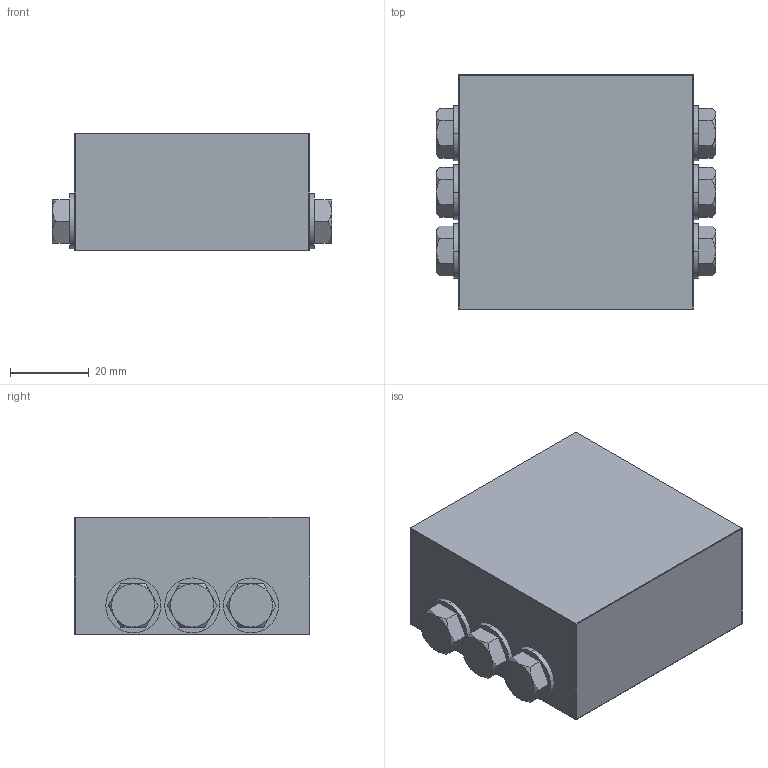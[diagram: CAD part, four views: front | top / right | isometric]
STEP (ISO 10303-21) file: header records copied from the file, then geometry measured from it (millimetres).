
FILE_DESCRIPTION((''),'2;1');
FILE_NAME('24Z477-EN-G_PRT','2019-12-31T18:52:36',('qusrh3'),(''),'CREO PARAMETRIC BY PTC INC, 2019030','CREO PARAMETRIC BY PTC INC, 2019030','');
FILE_SCHEMA(('CONFIG_CONTROL_DESIGN'));
Length unit declared in the file: inch
Products named in the file (1): 24Z477-EN-G_PRT
Bounding box: 71.1 x 60.09 x 30 mm (x, y, z)
Surface area: 17251.9 mm2 (no closed solid volume)
Topology: 0 solids, 15 shells, 118 faces, 288 edges, 180 vertices
Faces by surface type: plane 66, cone 36, cylinder 12, sphere 4
Entity records: 3684 total; most frequent: CARTESIAN_POINT 1070, DIRECTION 520, ORIENTED_EDGE 500, EDGE_CURVE 280, AXIS2_PLACEMENT_3D 194, VERTEX_POINT 180, VECTOR 132, LINE 132
